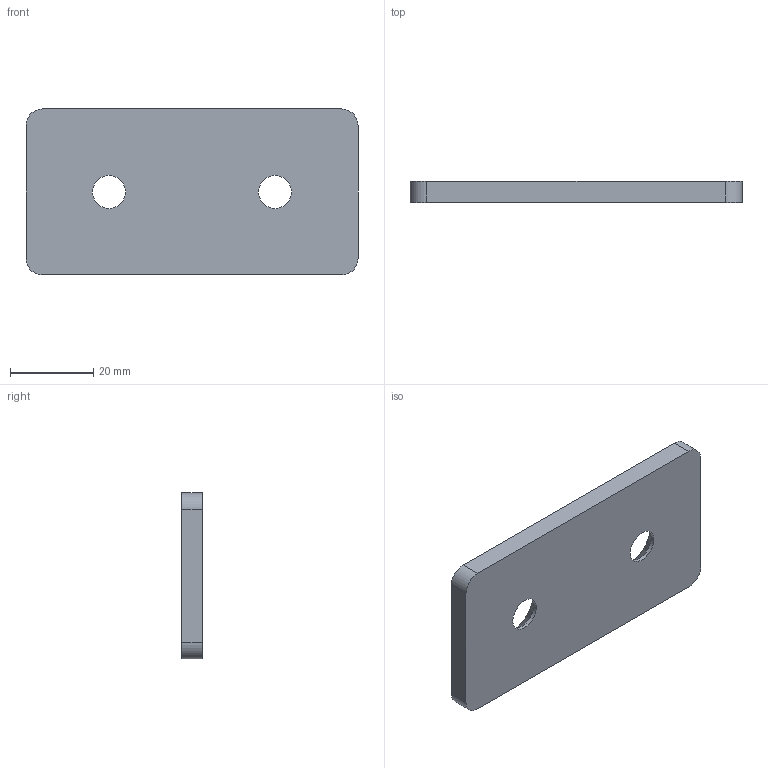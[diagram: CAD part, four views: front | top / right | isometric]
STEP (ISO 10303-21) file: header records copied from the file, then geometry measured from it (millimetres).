
FILE_DESCRIPTION( ( 'STEP AP203' ), '1' );
FILE_NAME( 'C:/Temp/Ganter_Step_05_03_2020/data/3_7/gn_967/gn_967_1/gn_967_1_f/Shackle GN 967-40-80-F-1-SW.stp', '2020-03-12T14:48:19', ( 'License CC BY-ND 4.0' ), ( 'CADENAS' ), ' ', 'PARTsolutions', ' ' );
FILE_SCHEMA( ( 'CONFIG_CONTROL_DESIGN' ) );
Length unit declared in the file: millimetre
Products named in the file (1): _Shackle GN 967-40-80-F-1-SW
Bounding box: 80 x 5 x 40 mm (x, y, z)
Volume: 14861.8 mm3; surface area: 7511.5 mm2
Topology: 1 solids, 1 shells, 14 faces, 34 edges, 22 vertices
Faces by surface type: plane 6, cylinder 6, cone 2
Full cylindrical faces by diameter (mm): 8 x2
Entity records: 448 total; most frequent: DIRECTION 74, CARTESIAN_POINT 67, ORIENTED_EDGE 60, EDGE_CURVE 30, AXIS2_PLACEMENT_3D 29, EDGE_LOOP 22, VERTEX_POINT 22, FACE_OUTER_BOUND 16
